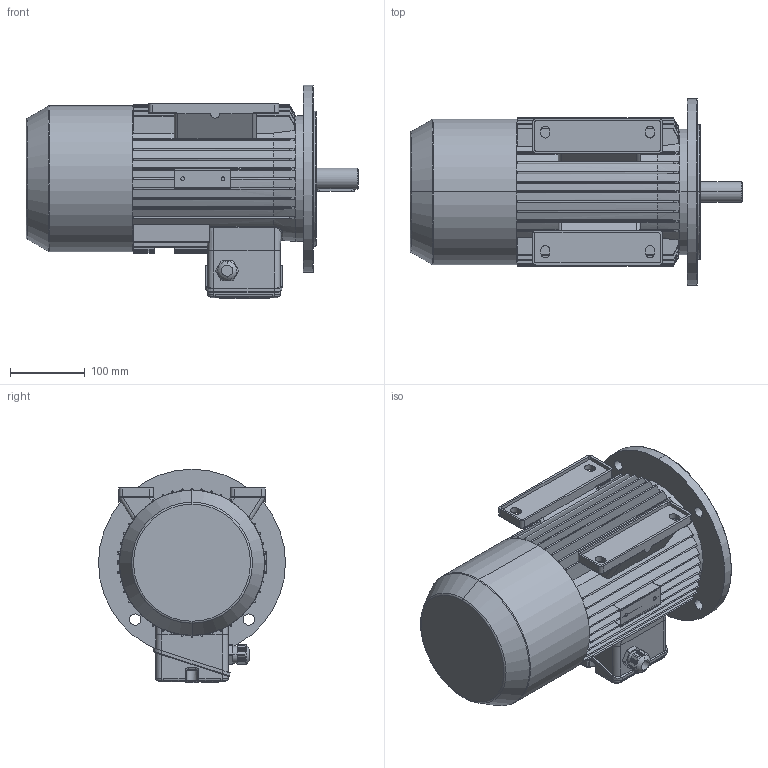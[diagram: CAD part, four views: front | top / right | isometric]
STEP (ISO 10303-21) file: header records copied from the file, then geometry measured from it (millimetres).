
FILE_DESCRIPTION (( 'STEP AP214' ), '1' );
FILE_NAME ('MAP100L6A IM2041 A250 FF215.STEP', '2021-03-05T13:10:35', ( '' ), ( '' ), 'SwSTEP 2.0', 'SolidWorks 2018', '' );
FILE_SCHEMA (( 'AUTOMOTIVE_DESIGN' ));
Length unit declared in the file: millimetre
Products named in the file (1): MAP100L6A IM2041 A250 FF215
Bounding box: 444 x 250 x 285.5 mm (x, y, z)
Volume: 10889383.5 mm3; surface area: 691655 mm2
Topology: 3 solids, 8 shells, 1327 faces, 3466 edges, 2168 vertices
Faces by surface type: plane 656, cylinder 314, bspline 198, torus 87, cone 70, sphere 2
Entity records: 51281 total; most frequent: CARTESIAN_POINT 20536, ORIENTED_EDGE 6884, DIRECTION 5804, EDGE_CURVE 3442, VERTEX_POINT 2168, AXIS2_PLACEMENT_3D 2016, VECTOR 1772, LINE 1772
